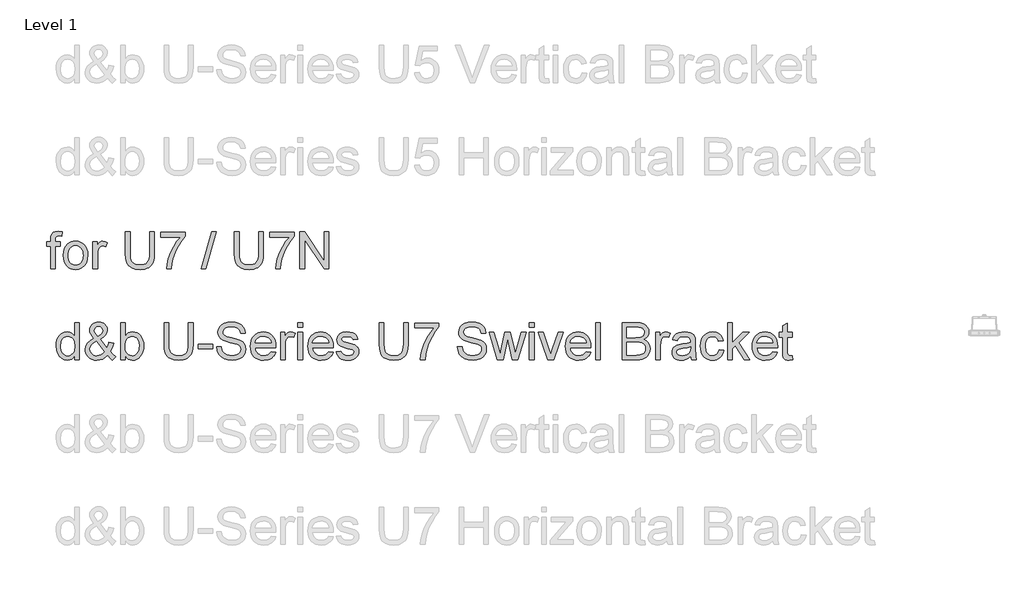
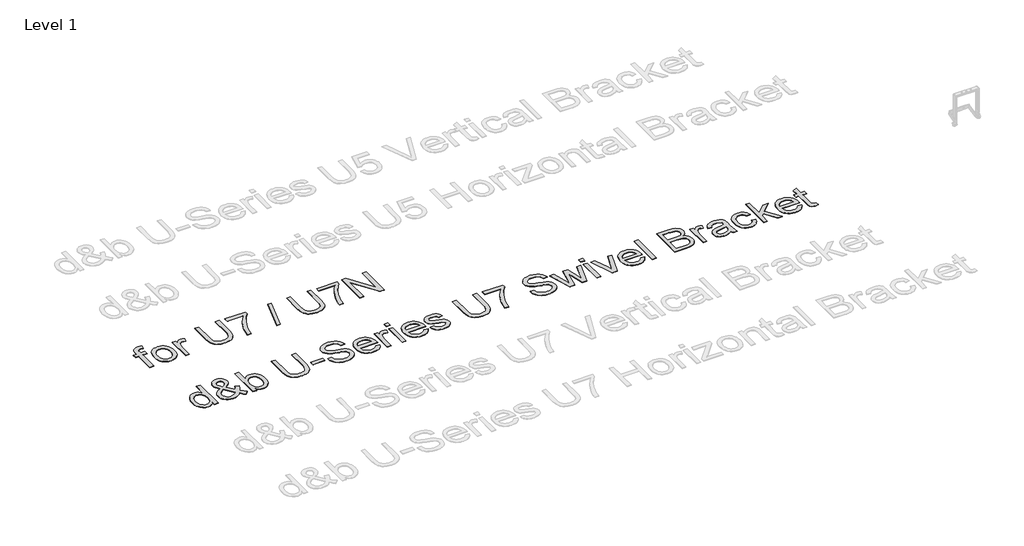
# One storey, part 5 of 29: 2 proxies.
"""IFC4 building model written with IfcOpenShell, lengths in millimetres."""

from ifc_helpers import new_model, si_unit, origin, origin_with_axes, place, context, project, spatial, polyline, outline, extrude, element, save

model = new_model("IFC4")

# Units and contexts
model_context = context("Model", 3, world=origin())
ifc_project = project(units=[si_unit("LENGTHUNIT", "METRE", prefix="MILLI")], contexts=[model_context])

# Site, building, storey
site = spatial("IfcSite", under=ifc_project)
building = spatial("IfcBuilding", under=site)
storey = spatial("IfcBuildingStorey", under=building, Name="Level 1", Elevation=0.0)

# Proxies
placement = place(None, origin())
element("IfcBuildingElementProxy", 1, Name="400mm Arial", ObjectType="400mm Arial", at=placement, inside=storey, context=model_context, shape_type="SweptSolid", body=[
    extrude(outline(polyline([(-21049.3412208, -6853.4987699), (-21049.3412208, -6608.636514), (-21093.2908565, -6608.636514), (-21093.2908565, -6558.4083589), (-21049.3412208, -6558.4083589), (-21049.3412208, -6528.6834937), (-21048.0168456, -6504.0844509), (-21044.0437201, -6486.7939971), (-21033.9392279, -6470.0921546), (-21018.3410313, -6456.8729282), (-20996.5133663, -6448.2644895), (-20967.7204688, -6445.39501), (-20921.9068977, -6450.8887144), (-20929.2645376, -6497.9776098), (-20958.2045879, -6495.623165), (-20977.2976634, -6497.7078297), (-20989.8424395, -6503.9618236), (-20996.7954092, -6515.9057257), (-20999.1130657, -6535.0601149), (-20999.1130657, -6558.4083589), (-20942.6063913, -6558.4083589), (-20942.6063913, -6608.636514), (-20999.1130657, -6608.636514), (-20999.1130657, -6853.4987699), (-21049.3412208, -6853.4987699)])), origin_with_axes(), (0.0, 0.0, 1.0), 5.0),
    extrude(outline(polyline([(-20911.2137944, -6705.9535644), (-20908.497599, -6667.7367565), (-20900.3490128, -6634.8051865), (-20886.7680358, -6607.1588546), (-20867.754668, -6584.7977607), (-20848.6125415, -6570.5055452), (-20827.4838522, -6560.2968198), (-20804.3686002, -6554.1715846), (-20779.2667854, -6552.1298395), (-20751.5560741, -6554.6161086), (-20726.5002446, -6562.0749161), (-20704.0992967, -6574.5062618), (-20684.3532307, -6591.9101459), (-20668.2369336, -6613.6979571), (-20656.7252928, -6639.2810841), (-20649.8183084, -6668.6595271), (-20647.5159802, -6701.8332861), (-20651.5872076, -6752.5764759), (-20663.8008899, -6791.2040854), (-20683.8014077, -6820.131873), (-20711.2331418, -6841.775597), (-20743.8152238, -6855.2768663), (-20779.2667854, -6859.7772893), (-20807.3821669, -6857.3002172), (-20832.6709884, -6849.8690009), (-20855.1332499, -6837.4836404), (-20874.7689514, -6820.1441357), (-20890.7135702, -6798.1447924), (-20902.1025836, -6771.7799161), (-20908.9359917, -6741.0495067), (-20911.2137944, -6705.9535644)]), holes=[polyline([(-20860.9856393, -6705.8554625), (-20859.5325054, -6730.2184477), (-20855.1731038, -6751.3134144), (-20847.9074343, -6769.1403628), (-20837.7354972, -6783.6992927), (-20825.3623994, -6795.0085984), (-20811.4932482, -6803.0866739), (-20796.1280435, -6807.9335192), (-20779.2667854, -6809.5491343), (-20762.4913664, -6807.9243221), (-20747.1874754, -6803.0498857), (-20733.3551124, -6794.9258249), (-20720.9942774, -6783.5521399), (-20710.8223402, -6768.8491229), (-20703.5566708, -6750.737066), (-20699.1972692, -6729.2159692), (-20697.7441353, -6704.2858327), (-20699.2064662, -6680.6953998), (-20703.593459, -6660.152256), (-20710.9051137, -6642.6564015), (-20721.1414302, -6628.2078361), (-20733.5482505, -6616.8985304), (-20747.3714164, -6608.8204549), (-20762.6109281, -6603.9736097), (-20779.2667854, -6602.3579946), (-20796.1280435, -6603.9674783), (-20811.4932482, -6608.7959295), (-20825.3623994, -6616.8433481), (-20837.7354972, -6628.1097342), (-20847.9074343, -6642.6257446), (-20855.1731038, -6660.4220361), (-20859.5325054, -6681.4986088), (-20860.9856393, -6705.8554625)])]), origin_with_axes(), (0.0, 0.0, 1.0), 5.0),
    extrude(outline(polyline([(-20591.0093057, -6853.4987699), (-20591.0093057, -6558.4083589), (-20547.0596701, -6558.4083589), (-20547.0596701, -6602.063689), (-20530.8238113, -6576.7534077), (-20515.8632769, -6561.8419242), (-20500.8536915, -6554.5578607), (-20484.4706799, -6552.1298395), (-20459.4547043, -6556.0048632), (-20434.0463211, -6567.6299342), (-20450.8217401, -6612.6586904), (-20468.4800759, -6604.9331685), (-20486.1384117, -6602.3579946), (-20501.1357343, -6604.8350667), (-20514.5389017, -6612.266283), (-20525.3668951, -6624.0875577), (-20532.6386958, -6639.7348053), (-20538.745537, -6667.7919388), (-20540.7811507, -6698.3997208), (-20540.7811507, -6853.4987699), (-20591.0093057, -6853.4987699)])), origin_with_axes(), (0.0, 0.0, 1.0), 5.0),
    extrude(outline(polyline([(-19975.7144061, -6451.6735293), (-19925.486251, -6451.6735293), (-19925.486251, -6683.4882372), (-19928.8952908, -6737.775357), (-19939.1224103, -6779.5790144), (-19947.3077847, -6796.532243), (-19958.2277486, -6811.8300026), (-19988.2714449, -6837.459115), (-20007.4135713, -6847.2233162), (-20029.3270755, -6854.1977457), (-20081.468217, -6859.7772893), (-20132.4689242, -6854.921247), (-20173.242512, -6840.35312), (-20189.7972018, -6829.5527177), (-20203.8012431, -6816.5756804), (-20215.2546359, -6801.4220078), (-20224.1573802, -6784.0917002), (-20235.5985102, -6740.5222092), (-20239.4122202, -6683.4882372), (-20239.4122202, -6451.6735293), (-20189.1840652, -6451.6735293), (-20189.1840652, -6681.7224037), (-20186.706993, -6726.8615245), (-20179.2757767, -6758.2909096), (-20165.8112957, -6780.057261), (-20145.2344295, -6796.2072806), (-20118.4035693, -6806.2136708), (-20086.1771065, -6809.5491343), (-20058.4939864, -6807.8997966), (-20035.0905601, -6802.9517838), (-20015.9668277, -6794.7050957), (-20001.1227892, -6783.1597325), (-19990.0066216, -6766.9238737), (-19982.0665019, -6744.6056994), (-19977.30243, -6716.2052093), (-19975.7144061, -6681.7224037), (-19975.7144061, -6451.6735293)])), origin_with_axes(), (0.0, 0.0, 1.0), 5.0),
    extrude(outline(polyline([(-19856.4225378, -6508.1802038), (-19856.4225378, -6457.9520487), (-19592.7247236, -6457.9520487), (-19592.7247236, -6498.566221), (-19630.3100008, -6546.133363), (-19667.527396, -6606.6254257), (-19700.3547327, -6674.5241793), (-19724.7698344, -6744.3113938), (-19736.738262, -6796.5261116), (-19743.4091889, -6853.4987699), (-19793.6373439, -6853.4987699), (-19788.2049531, -6801.7255105), (-19773.6736143, -6740.1911154), (-19750.435735, -6674.9656377), (-19718.8837225, -6612.1191302), (-19682.0464721, -6555.3058874), (-19642.9528787, -6508.1802038), (-19856.4225378, -6508.1802038)])), origin_with_axes(), (0.0, 0.0, 1.0), 5.0),
    extrude(outline(polyline([(-19416.9261809, -6853.4987699), (-19303.912832, -6451.6735293), (-19258.3935664, -6451.6735293), (-19371.5050172, -6853.4987699), (-19416.9261809, -6853.4987699)])), origin_with_axes(), (0.0, 0.0, 1.0), 5.0),
    extrude(outline(polyline([(-18795.3527618, -6451.6735293), (-18745.1246067, -6451.6735293), (-18745.1246067, -6683.4882372), (-18748.5336466, -6737.775357), (-18758.760766, -6779.5790144), (-18766.9461404, -6796.532243), (-18777.8661043, -6811.8300026), (-18807.9098006, -6837.459115), (-18827.0519271, -6847.2233162), (-18848.9654313, -6854.1977457), (-18901.1065727, -6859.7772893), (-18952.10728, -6854.921247), (-18992.8808678, -6840.35312), (-19009.4355576, -6829.5527177), (-19023.4395988, -6816.5756804), (-19034.8929916, -6801.4220078), (-19043.7957359, -6784.0917002), (-19055.236866, -6740.5222092), (-19059.050576, -6683.4882372), (-19059.050576, -6451.6735293), (-19008.8224209, -6451.6735293), (-19008.8224209, -6681.7224037), (-19006.3453488, -6726.8615245), (-18998.9141325, -6758.2909096), (-18985.4496515, -6780.057261), (-18964.8727852, -6796.2072806), (-18938.041925, -6806.2136708), (-18905.8154622, -6809.5491343), (-18878.1323421, -6807.8997966), (-18854.7289158, -6802.9517838), (-18835.6051835, -6794.7050957), (-18820.761145, -6783.1597325), (-18809.6449773, -6766.9238737), (-18801.7048576, -6744.6056994), (-18796.9407858, -6716.2052093), (-18795.3527618, -6681.7224037), (-18795.3527618, -6451.6735293)])), origin_with_axes(), (0.0, 0.0, 1.0), 5.0),
    extrude(outline(polyline([(-18676.0608935, -6508.1802038), (-18676.0608935, -6457.9520487), (-18412.3630794, -6457.9520487), (-18412.3630794, -6498.566221), (-18449.9483566, -6546.133363), (-18487.1657517, -6606.6254257), (-18519.9930884, -6674.5241793), (-18544.4081902, -6744.3113938), (-18556.3766178, -6796.5261116), (-18563.0475446, -6853.4987699), (-18613.2756997, -6853.4987699), (-18607.8433089, -6801.7255105), (-18593.3119701, -6740.1911154), (-18570.0740907, -6674.9656377), (-18538.5220783, -6612.1191302), (-18501.6848278, -6555.3058874), (-18462.5912345, -6508.1802038), (-18676.0608935, -6508.1802038)])), origin_with_axes(), (0.0, 0.0, 1.0), 5.0),
    extrude(outline(polyline([(-18349.5778855, -6853.4987699), (-18349.5778855, -6451.6735293), (-18295.8180633, -6451.6735293), (-18085.8800714, -6770.0140825), (-18085.8800714, -6451.6735293), (-18035.6519163, -6451.6735293), (-18035.6519163, -6853.4987699), (-18089.4117385, -6853.4987699), (-18299.3497305, -6535.0601149), (-18299.3497305, -6853.4987699), (-18349.5778855, -6853.4987699)])), origin_with_axes(), (0.0, 0.0, 1.0), 5.0),
])
element("IfcBuildingElementProxy", 2, Name="400mm Arial", ObjectType="400mm Arial", at=placement, inside=storey, context=model_context, shape_type="SweptSolid", body=[
    extrude(outline(polyline([(-20788.4119982, -7835.6363385), (-20788.4119982, -7788.2531375), (-20803.4399777, -7811.7301402), (-20821.6440051, -7828.4994278), (-20843.0240804, -7838.5610004), (-20867.5802036, -7841.9148579), (-20900.051921, -7837.0588156), (-20929.7767862, -7822.4906885), (-20954.9399147, -7799.2282837), (-20973.7264219, -7768.2894079), (-20985.4250694, -7730.9248599), (-20989.3246185, -7688.3854386), (-20985.7316377, -7646.3733147), (-20974.9526952, -7608.4324183), (-20957.0000539, -7576.7209903), (-20931.8859763, -7553.3972718), (-20901.5111863, -7539.049874), (-20867.7764073, -7534.2674081), (-20843.20189, -7537.6887106), (-20821.4723268, -7547.9526183), (-20803.0537016, -7563.6857049), (-20788.4119982, -7583.5145445), (-20788.4119982, -7433.8110979), (-20738.1838431, -7433.8110979), (-20738.1838431, -7835.6363385), (-20788.4119982, -7835.6363385)]), holes=[polyline([(-20939.0964634, -7688.1892348), (-20937.6801177, -7712.5460886), (-20933.4310807, -7733.6226612), (-20926.3493523, -7751.4189528), (-20916.4349325, -7765.9349632), (-20891.7377879, -7785.2487679), (-20877.8625053, -7790.0772191), (-20862.9694159, -7791.6867028), (-20848.0058157, -7790.1507955), (-20834.2133066, -7785.5430735), (-20810.1415614, -7767.1121855), (-20800.6348775, -7753.2031804), (-20793.844389, -7736.0506824), (-20788.4119982, -7692.0152076), (-20793.9424909, -7643.8717172), (-20800.8556067, -7625.336596), (-20810.5339688, -7610.4925575), (-20822.235682, -7599.1188724), (-20835.2188507, -7590.9948117), (-20849.4834751, -7586.1203753), (-20865.0295551, -7584.4955631), (-20880.2169501, -7586.0559959), (-20894.0922327, -7590.7372943), (-20906.6554028, -7598.5394583), (-20917.9064605, -7609.4624879), (-20927.1770868, -7623.7455063), (-20933.7989627, -7641.627637), (-20939.0964634, -7688.1892348)])]), origin_with_axes(), (0.0, 0.0, 1.0), 5.0),
    extrude(outline(polyline([(-20432.4003287, -7785.9967946), (-20457.9313392, -7810.4609473), (-20485.6696416, -7827.9353421), (-20515.664287, -7838.4199789), (-20547.9643262, -7841.9148579), (-20577.2722584, -7839.3274212), (-20603.3918801, -7831.5651111), (-20626.3231911, -7818.6279276), (-20646.0661915, -7800.5158707), (-20658.8991418, -7783.1457092), (-20668.0655348, -7764.7822662), (-20673.5653707, -7745.4255419), (-20675.3986493, -7725.0755362), (-20669.5002746, -7689.881492), (-20651.8051507, -7658.2681659), (-20622.3868538, -7630.2600833), (-20581.3189604, -7605.8817698), (-20603.2324646, -7577.5303307), (-20616.3903773, -7555.0650035), (-20622.975465, -7535.8860888), (-20625.1704942, -7517.3938872), (-20623.4414488, -7499.8397847), (-20618.2543127, -7483.4751673), (-20609.6090858, -7468.300035), (-20597.5057682, -7454.3143878), (-20582.784357, -7442.5973462), (-20566.2848495, -7434.2280308), (-20548.0072457, -7429.2064416), (-20527.9515456, -7427.5325785), (-20508.8032878, -7429.1328652), (-20491.4821772, -7433.9337252), (-20475.9882138, -7441.9351586), (-20462.3213977, -7453.1371654), (-20451.1623105, -7466.5832523), (-20443.1915339, -7481.3169262), (-20438.409068, -7497.3381871), (-20436.8149127, -7514.647035), (-20441.5360649, -7542.6305921), (-20455.6995218, -7568.5049591), (-20479.3052831, -7592.270136), (-20512.353349, -7613.9261227), (-20439.6598668, -7704.4741445), (-20427.2745063, -7678.5997775), (-20417.9793545, -7648.8503868), (-20367.7511994, -7659.7396939), (-20383.2022432, -7706.2645035), (-20403.2640747, -7742.4395664), (-20374.7164319, -7775.7451497), (-20342.6371219, -7803.2627229), (-20380.3082382, -7841.9148579), (-20405.9373505, -7818.4685121), (-20432.4003287, -7785.9967946)]), holes=[polyline([(-20537.7617322, -7582.2392202), (-20511.4949577, -7565.5741659), (-20496.4608468, -7551.091878), (-20489.3975125, -7537.0019976), (-20487.0430678, -7521.5141656), (-20490.1455392, -7503.9661944), (-20499.4529537, -7489.9744158), (-20513.4202068, -7480.8141542), (-20530.5021941, -7477.7607336), (-20547.9520634, -7480.7896287), (-20562.2381476, -7489.876314), (-20571.7662912, -7503.3285323), (-20574.9423391, -7519.4540264), (-20570.6258571, -7537.8481261), (-20557.578309, -7558.3023651), (-20537.7617322, -7582.2392202)]), polyline([(-20466.0492686, -7749.7972063), (-20555.7143735, -7637.8629779), (-20589.9641873, -7659.7151684), (-20610.8966728, -7679.9486782), (-20621.6020389, -7699.2747456), (-20625.1704942, -7718.4046094), (-20620.2899264, -7742.0962099), (-20605.648223, -7766.6707271), (-20594.8692805, -7777.6152165), (-20582.0547244, -7785.4327089), (-20567.2045545, -7790.1232043), (-20550.3187709, -7791.6867028), (-20527.5959264, -7788.7681723), (-20504.1618433, -7780.0125808), (-20482.7388484, -7766.6216762), (-20466.0492686, -7749.7972063)])]), origin_with_axes(), (0.0, 0.0, 1.0), 5.0),
    extrude(outline(polyline([(-20242.1808118, -7835.6363385), (-20292.4089668, -7835.6363385), (-20292.4089668, -7433.8110979), (-20242.1808118, -7433.8110979), (-20242.1808118, -7582.8278314), (-20225.6629102, -7561.5826462), (-20207.011293, -7546.4075139), (-20186.2259603, -7537.3024345), (-20163.306912, -7534.2674081), (-20137.432545, -7537.0019976), (-20112.9806551, -7545.2057661), (-20091.3491937, -7558.3636787), (-20073.9361126, -7575.9607008), (-20060.2876906, -7597.8251541), (-20049.9502065, -7623.7853602), (-20043.4386952, -7652.7621987), (-20041.2681915, -7683.676549), (-20043.5153373, -7719.3488398), (-20050.2567749, -7750.729174), (-20061.4925041, -7777.8175516), (-20077.2225251, -7800.6139726), (-20096.1040685, -7818.6831099), (-20116.7943651, -7831.5896366), (-20139.2934148, -7839.3335526), (-20163.6012176, -7841.9148579), (-20187.274424, -7838.5855258), (-20208.2620918, -7828.5975297), (-20226.5642211, -7811.9508694), (-20242.1808118, -7788.645545), (-20242.1808118, -7835.6363385)]), holes=[polyline([(-20242.1808118, -7686.0309938), (-20238.7472465, -7727.9204903), (-20228.4465506, -7756.2719294), (-20216.2757879, -7771.7658928), (-20202.1307252, -7782.8330095), (-20186.0113625, -7789.4732795), (-20167.9176997, -7791.6867028), (-20152.8958515, -7790.0557593), (-20138.9285984, -7785.1629288), (-20126.0159404, -7777.0082112), (-20114.1578774, -7765.5916066), (-20104.2434577, -7750.9437719), (-20097.1617293, -7733.0953637), (-20092.9126922, -7712.0463822), (-20091.4963465, -7687.7968274), (-20096.9287373, -7641.8361035), (-20103.7192258, -7624.0428776), (-20113.2259097, -7609.7077425), (-20124.6578427, -7598.677414), (-20137.2240785, -7590.798608), (-20150.9246172, -7586.0713243), (-20165.7594586, -7584.4955631), (-20180.7813068, -7586.1265066), (-20194.7485599, -7591.0193372), (-20207.6612179, -7599.1740547), (-20219.5192809, -7610.5906593), (-20229.4337006, -7625.0913413), (-20236.515429, -7642.498291), (-20240.7644661, -7662.8115085), (-20242.1808118, -7686.0309938)])]), origin_with_axes(), (0.0, 0.0, 1.0), 5.0),
    extrude(outline(polyline([(-19557.8221989, -7433.8110979), (-19507.5940438, -7433.8110979), (-19507.5940438, -7665.6258058), (-19511.0030836, -7719.9129256), (-19521.2302031, -7761.7165829), (-19529.4155775, -7778.6698116), (-19540.3355414, -7793.9675712), (-19570.3792376, -7819.5966835), (-19589.5213641, -7829.3608848), (-19611.4348683, -7836.3353143), (-19663.5760097, -7841.9148579), (-19714.576717, -7837.0588156), (-19755.3503048, -7822.4906885), (-19771.9049946, -7811.6902863), (-19785.9090359, -7798.7132489), (-19797.3624287, -7783.5595764), (-19806.2651729, -7766.2292688), (-19817.706303, -7722.6597778), (-19821.520013, -7665.6258058), (-19821.520013, -7433.8110979), (-19771.2918579, -7433.8110979), (-19771.2918579, -7663.8599722), (-19768.8147858, -7708.999093), (-19761.3835695, -7740.4284782), (-19747.9190885, -7762.1948295), (-19727.3422222, -7778.3448491), (-19700.5113621, -7788.3512394), (-19668.2848993, -7791.6867028), (-19640.6017791, -7790.0373652), (-19617.1983529, -7785.0893524), (-19598.0746205, -7776.8426643), (-19583.230582, -7765.297301), (-19572.1144144, -7749.0614423), (-19564.1742947, -7726.7432679), (-19559.4102228, -7698.3427779), (-19557.8221989, -7663.8599722), (-19557.8221989, -7433.8110979)])), origin_with_axes(), (0.0, 0.0, 1.0), 5.0),
    extrude(outline(polyline([(-19451.0873693, -7716.3444702), (-19451.0873693, -7666.1163151), (-19294.1243847, -7666.1163151), (-19294.1243847, -7716.3444702), (-19451.0873693, -7716.3444702)])), origin_with_axes(), (0.0, 0.0, 1.0), 5.0),
    extrude(outline(polyline([(-19250.174749, -7697.5089121), (-19199.946594, -7697.5089121), (-19194.1831094, -7725.3821046), (-19183.7597862, -7747.7861181), (-19167.499402, -7765.5670812), (-19144.2247344, -7779.5711224), (-19115.7751935, -7788.6578077), (-19083.9901891, -7791.6867028), (-19056.006632, -7789.3935717), (-19031.5056911, -7782.5141784), (-19011.6523261, -7771.6248713), (-18997.6114966, -7757.301999), (-18989.2605753, -7740.8576738), (-18986.4769349, -7723.6040082), (-18988.5615995, -7706.7918011), (-18994.8155934, -7692.2604623), (-19007.519785, -7679.862839), (-19028.9550426, -7669.4517786), (-19102.0899832, -7650.2728639), (-19150.0985836, -7637.580935), (-19180.8167302, -7625.5021429), (-19205.8204431, -7608.6040966), (-19223.5400926, -7588.1253322), (-19234.0983058, -7564.5073081), (-19237.6177103, -7538.1914827), (-19233.26444, -7508.7731858), (-19220.2046292, -7481.3414517), (-19198.7816343, -7458.0913096), (-19169.338812, -7441.2177887), (-19133.997615, -7430.9538811), (-19094.8794961, -7427.5325785), (-19052.4994903, -7431.1132966), (-19015.4169852, -7441.8554509), (-18984.956356, -7459.5383121), (-18962.4419779, -7483.9411511), (-18948.1926819, -7513.543389), (-18942.5272992, -7546.8244468), (-18992.7554543, -7546.8244468), (-19001.9770296, -7516.854327), (-19010.3402136, -7504.996264), (-19021.2049952, -7495.2228656), (-19051.2486915, -7482.1262666), (-19092.9174588, -7477.7607336), (-19135.5672448, -7482.0772157), (-19151.8705486, -7487.4728183), (-19164.8261262, -7495.0266619), (-19181.7486979, -7514.0829493), (-19187.3895552, -7536.7199547), (-19183.3919042, -7556.0214967), (-19171.3989511, -7571.5461169), (-19143.047512, -7585.4275309), (-19089.3857917, -7599.6032504), (-19034.0072887, -7613.0677314), (-19000.5055016, -7624.8154298), (-18971.8720197, -7643.0378513), (-18951.8960273, -7665.5277039), (-18940.1605917, -7692.0397331), (-18936.2487798, -7722.328684), (-18940.7492029, -7753.2920853), (-18954.2504721, -7782.4160765), (-18976.2007645, -7807.4811031), (-19006.048257, -7826.2676104), (-19041.941277, -7838.003046), (-19082.0281518, -7841.9148579), (-19131.2385, -7837.6964777), (-19171.7423077, -7825.041337), (-19204.0055586, -7803.9003851), (-19228.4942368, -7774.2245708), (-19244.2150607, -7738.0740334), (-19250.174749, -7697.5089121)])), origin_with_axes(), (0.0, 0.0, 1.0), 5.0),
    extrude(outline(polyline([(-18660.5825381, -7747.7370671), (-18611.3354017, -7754.0155865), (-18618.8861796, -7773.7401928), (-18629.0795766, -7791.1226171), (-18641.9155925, -7806.1628593), (-18657.3942275, -7818.8609195), (-18675.3560659, -7828.9470176), (-18695.6416922, -7836.1513733), (-18743.1843087, -7841.9148579), (-18774.3500451, -7839.4285887), (-18802.1190044, -7831.9697813), (-18826.4911866, -7819.5384355), (-18847.4665916, -7802.1345515), (-18864.3339811, -7780.2425071), (-18876.3821165, -7754.3466803), (-18883.6109977, -7724.4470712), (-18886.0206247, -7690.5436796), (-18883.5864722, -7655.4906568), (-18876.2840146, -7624.5947006), (-18864.1132519, -7597.8558109), (-18847.0741842, -7575.2739878), (-18826.1539614, -7557.3336092), (-18802.3397336, -7544.519053), (-18775.6315007, -7536.8303193), (-18746.0292628, -7534.2674081), (-18717.3804525, -7536.8241879), (-18691.472363, -7544.4945275), (-18668.3049943, -7557.2784269), (-18647.8783465, -7575.1758859), (-18631.2040951, -7597.7086581), (-18619.2939155, -7624.3984969), (-18612.1478077, -7655.2454022), (-18609.7657718, -7690.249374), (-18610.0600774, -7703.7874314), (-18835.7924697, -7703.7874314), (-18832.8831362, -7723.8308688), (-18827.0981918, -7741.3849713), (-18818.4376365, -7756.449739), (-18806.9014703, -7769.0251719), (-18793.1273553, -7778.9395917), (-18777.7529536, -7786.0213201), (-18742.2032901, -7791.6867028), (-18715.4705318, -7789.0624779), (-18692.9561537, -7781.1898032), (-18674.6601558, -7767.5781694), (-18660.5825381, -7747.7370671)]), holes=[polyline([(-18835.7924697, -7653.5592764), (-18659.9939269, -7653.5592764), (-18666.7874811, -7627.0227218), (-18680.1048093, -7608.0400108), (-18693.8022823, -7597.739315), (-18709.3882161, -7590.3816751), (-18726.8626109, -7585.9670911), (-18746.2254666, -7584.4955631), (-18780.0828729, -7589.1921899), (-18808.0786927, -7603.2820704), (-18827.5396502, -7625.2446255), (-18835.7924697, -7653.5592764)])]), origin_with_axes(), (0.0, 0.0, 1.0), 5.0),
    extrude(outline(polyline([(-18559.5376168, -7835.6363385), (-18559.5376168, -7540.5459274), (-18515.5879811, -7540.5459274), (-18515.5879811, -7584.2012575), (-18499.3521223, -7558.8909763), (-18484.3915879, -7543.9794927), (-18469.3820025, -7536.6954292), (-18452.998991, -7534.2674081), (-18427.9830153, -7538.1424317), (-18402.5746321, -7549.7675028), (-18419.3500511, -7594.796259), (-18437.0083869, -7587.0707371), (-18454.6667227, -7584.4955631), (-18469.6640453, -7586.9726352), (-18483.0672127, -7594.4038515), (-18493.8952061, -7606.2251263), (-18501.1670069, -7621.8723738), (-18507.273848, -7649.9295073), (-18509.3094617, -7680.5372893), (-18509.3094617, -7835.6363385), (-18559.5376168, -7835.6363385)])), origin_with_axes(), (0.0, 0.0, 1.0), 5.0),
    extrude(outline(polyline([(-18371.1820352, -7484.039253), (-18371.1820352, -7433.8110979), (-18320.9538802, -7433.8110979), (-18320.9538802, -7484.039253), (-18371.1820352, -7484.039253)])), origin_with_axes(), (0.0, 0.0, 1.0), 5.0),
    extrude(outline(polyline([(-18371.1820352, -7835.6363385), (-18371.1820352, -7540.5459274), (-18320.9538802, -7540.5459274), (-18320.9538802, -7835.6363385), (-18371.1820352, -7835.6363385)])), origin_with_axes(), (0.0, 0.0, 1.0), 5.0),
    extrude(outline(polyline([(-18039.009119, -7747.7370671), (-17989.7619826, -7754.0155865), (-17997.3127606, -7773.7401928), (-18007.5061575, -7791.1226171), (-18020.3421735, -7806.1628593), (-18035.8208084, -7818.8609195), (-18053.7826468, -7828.9470176), (-18074.0682732, -7836.1513733), (-18121.6108897, -7841.9148579), (-18152.7766261, -7839.4285887), (-18180.5455853, -7831.9697813), (-18204.9177675, -7819.5384355), (-18225.8931726, -7802.1345515), (-18242.7605621, -7780.2425071), (-18254.8086974, -7754.3466803), (-18262.0375786, -7724.4470712), (-18264.4472057, -7690.5436796), (-18262.0130532, -7655.4906568), (-18254.7105956, -7624.5947006), (-18242.5398329, -7597.8558109), (-18225.5007651, -7575.2739878), (-18204.5805423, -7557.3336092), (-18180.7663145, -7544.519053), (-18154.0580817, -7536.8303193), (-18124.4558438, -7534.2674081), (-18095.8070334, -7536.8241879), (-18069.8989439, -7544.4945275), (-18046.7315753, -7557.2784269), (-18026.3049275, -7575.1758859), (-18009.630676, -7597.7086581), (-17997.7204965, -7624.3984969), (-17990.5743887, -7655.2454022), (-17988.1923528, -7690.249374), (-17988.4866584, -7703.7874314), (-18214.2190506, -7703.7874314), (-18211.3097172, -7723.8308688), (-18205.5247728, -7741.3849713), (-18196.8642175, -7756.449739), (-18185.3280513, -7769.0251719), (-18171.5539362, -7778.9395917), (-18156.1795345, -7786.0213201), (-18120.629871, -7791.6867028), (-18093.8971127, -7789.0624779), (-18071.3827346, -7781.1898032), (-18053.0867367, -7767.5781694), (-18039.009119, -7747.7370671)]), holes=[polyline([(-18214.2190506, -7653.5592764), (-18038.4205079, -7653.5592764), (-18045.214062, -7627.0227218), (-18058.5313903, -7608.0400108), (-18072.2288632, -7597.739315), (-18087.8147971, -7590.3816751), (-18105.2891918, -7585.9670911), (-18124.6520475, -7584.4955631), (-18158.5094538, -7589.1921899), (-18186.5052736, -7603.2820704), (-18205.9662312, -7625.2446255), (-18214.2190506, -7653.5592764)])]), origin_with_axes(), (0.0, 0.0, 1.0), 5.0),
    extrude(outline(polyline([(-17956.7997559, -7747.7370671), (-17906.5716008, -7741.4585477), (-17898.6498752, -7762.9428563), (-17883.3214587, -7778.7372566), (-17860.4882495, -7788.4493413), (-17830.0521458, -7791.6867028), (-17799.983924, -7788.7191214), (-17778.8429721, -7779.8163771), (-17766.3349842, -7766.9159818), (-17762.1656549, -7751.9554473), (-17766.3595097, -7739.1531539), (-17778.9410739, -7729.3920183), (-17830.640757, -7715.069146), (-17906.2772952, -7690.4946287), (-17925.4194217, -7678.1460564), (-17939.2885729, -7661.7998331), (-17947.7130706, -7642.498291), (-17950.5212365, -7621.2837627), (-17948.2648936, -7601.8228051), (-17941.4958649, -7583.857901), (-17930.827287, -7568.1002889), (-17916.8722966, -7555.2612073), (-17884.9401395, -7540.3987746), (-17864.0567049, -7535.8002497), (-17841.7262678, -7534.2674081), (-17809.0338211, -7536.7322174), (-17780.6088056, -7544.1266455), (-17757.751071, -7555.7271911), (-17741.7604669, -7570.8103529), (-17731.1654655, -7590.4920397), (-17724.4945386, -7615.8881601), (-17774.7226937, -7622.1666794), (-17781.0625268, -7606.3600164), (-17793.6073028, -7594.4529025), (-17812.4796492, -7586.984898), (-17837.8021932, -7584.4955631), (-17866.6441416, -7586.8745334), (-17885.8721072, -7594.0114441), (-17896.6878378, -7604.3121399), (-17900.2930814, -7616.1824657), (-17894.3088676, -7630.7996436), (-17875.5714113, -7641.8851544), (-17832.3084887, -7652.5782577), (-17758.5849369, -7676.2208073), (-17739.1117166, -7687.5270473), (-17724.3473858, -7703.0026165), (-17715.0399714, -7722.696566), (-17711.9374999, -7746.6579466), (-17715.5795316, -7771.4286676), (-17726.5056269, -7794.7278606), (-17744.2988527, -7814.7283785), (-17768.5422762, -7829.6030738), (-17797.825683, -7838.8369119), (-17830.7388588, -7841.9148579), (-17857.7720541, -7840.4310672), (-17881.3839468, -7835.979695), (-17901.574537, -7828.5607415), (-17918.3438246, -7818.1742065), (-17932.0412976, -7804.869141), (-17943.0164438, -7788.6945959), (-17951.2692632, -7769.6505713), (-17956.7997559, -7747.7370671)])), origin_with_axes(), (0.0, 0.0, 1.0), 5.0),
    extrude(outline(polyline([(-17228.4915073, -7433.8110979), (-17178.2633522, -7433.8110979), (-17178.2633522, -7665.6258058), (-17181.672392, -7719.9129256), (-17191.8995115, -7761.7165829), (-17200.0848859, -7778.6698116), (-17211.0048498, -7793.9675712), (-17241.048546, -7819.5966835), (-17260.1906725, -7829.3608848), (-17282.1041767, -7836.3353143), (-17334.2453182, -7841.9148579), (-17385.2460254, -7837.0588156), (-17426.0196132, -7822.4906885), (-17442.574303, -7811.6902863), (-17456.5783443, -7798.7132489), (-17468.0317371, -7783.5595764), (-17476.9344814, -7766.2292688), (-17488.3756114, -7722.6597778), (-17492.1893214, -7665.6258058), (-17492.1893214, -7433.8110979), (-17441.9611663, -7433.8110979), (-17441.9611663, -7663.8599722), (-17439.4840942, -7708.999093), (-17432.0528779, -7740.4284782), (-17418.5883969, -7762.1948295), (-17398.0115307, -7778.3448491), (-17371.1806705, -7788.3512394), (-17338.9542077, -7791.6867028), (-17311.2710876, -7790.0373652), (-17287.8676613, -7785.0893524), (-17268.7439289, -7776.8426643), (-17253.8998904, -7765.297301), (-17242.7837228, -7749.0614423), (-17234.8436031, -7726.7432679), (-17230.0795312, -7698.3427779), (-17228.4915073, -7663.8599722), (-17228.4915073, -7433.8110979)])), origin_with_axes(), (0.0, 0.0, 1.0), 5.0),
    extrude(outline(polyline([(-17109.199639, -7490.3177724), (-17109.199639, -7440.0896173), (-16845.5018248, -7440.0896173), (-16845.5018248, -7480.7037896), (-16883.087102, -7528.2709315), (-16920.3044972, -7588.7629943), (-16953.1318339, -7656.6617479), (-16977.5469356, -7726.4489623), (-16989.5153632, -7778.6636802), (-16996.1862901, -7835.6363385), (-17046.4144451, -7835.6363385), (-17040.9820543, -7783.8630791), (-17026.4507155, -7722.328684), (-17003.2128362, -7657.1032063), (-16971.6608237, -7594.2566987), (-16934.8235733, -7537.443456), (-16895.7299799, -7490.3177724), (-17109.199639, -7490.3177724)])), origin_with_axes(), (0.0, 0.0, 1.0), 5.0),
    extrude(outline(polyline([(-16644.5892045, -7697.5089121), (-16594.3610495, -7697.5089121), (-16588.5975649, -7725.3821046), (-16578.1742417, -7747.7861181), (-16561.9138575, -7765.5670812), (-16538.6391899, -7779.5711224), (-16510.189649, -7788.6578077), (-16478.4046446, -7791.6867028), (-16450.4210875, -7789.3935717), (-16425.9201466, -7782.5141784), (-16406.0667816, -7771.6248713), (-16392.0259521, -7757.301999), (-16383.6750308, -7740.8576738), (-16380.8913904, -7723.6040082), (-16382.976055, -7706.7918011), (-16389.2300489, -7692.2604623), (-16401.9342405, -7679.862839), (-16423.3694981, -7669.4517786), (-16496.5044387, -7650.2728639), (-16544.5130391, -7637.580935), (-16575.2311857, -7625.5021429), (-16600.2348986, -7608.6040966), (-16617.9545481, -7588.1253322), (-16628.5127613, -7564.5073081), (-16632.0321658, -7538.1914827), (-16627.6788955, -7508.7731858), (-16614.6190847, -7481.3414517), (-16593.1960898, -7458.0913096), (-16563.7532675, -7441.2177887), (-16528.4120705, -7430.9538811), (-16489.2939516, -7427.5325785), (-16446.9139458, -7431.1132966), (-16409.8314407, -7441.8554509), (-16379.3708115, -7459.5383121), (-16356.8564334, -7483.9411511), (-16342.6071374, -7513.543389), (-16336.9417547, -7546.8244468), (-16387.1699098, -7546.8244468), (-16396.3914851, -7516.854327), (-16404.7546691, -7504.996264), (-16415.6194507, -7495.2228656), (-16445.663147, -7482.1262666), (-16487.3319143, -7477.7607336), (-16529.9817003, -7482.0772157), (-16546.2850041, -7487.4728183), (-16559.2405816, -7495.0266619), (-16576.1631534, -7514.0829493), (-16581.8040107, -7536.7199547), (-16577.8063597, -7556.0214967), (-16565.8134066, -7571.5461169), (-16537.4619675, -7585.4275309), (-16483.8002472, -7599.6032504), (-16428.4217442, -7613.0677314), (-16394.9199571, -7624.8154298), (-16366.2864752, -7643.0378513), (-16346.3104828, -7665.5277039), (-16334.5750472, -7692.0397331), (-16330.6632353, -7722.328684), (-16335.1636584, -7753.2920853), (-16348.6649276, -7782.4160765), (-16370.61522, -7807.4811031), (-16400.4627125, -7826.2676104), (-16436.3557325, -7838.003046), (-16476.4426073, -7841.9148579), (-16525.6529555, -7837.6964777), (-16566.1567632, -7825.041337), (-16598.4200141, -7803.9003851), (-16622.9086923, -7774.2245708), (-16638.6295162, -7738.0740334), (-16644.5892045, -7697.5089121)])), origin_with_axes(), (0.0, 0.0, 1.0), 5.0),
    extrude(outline(polyline([(-16212.2542838, -7835.6363385), (-16302.4098981, -7540.5459274), (-16250.3178076, -7540.5459274), (-16199.3048376, -7712.7147012), (-16184.0990484, -7774.2245708), (-16171.6401115, -7714.9710441), (-16131.1240411, -7540.5459274), (-16071.478107, -7540.5459274), (-16030.9620366, -7714.4805348), (-16019.8765258, -7768.1422551), (-16003.9840236, -7711.5374788), (-15952.9710536, -7540.5459274), (-15900.5846575, -7540.5459274), (-15991.0345774, -7835.6363385), (-16051.6615302, -7835.6363385), (-16090.3136651, -7662.584648), (-16101.4972778, -7608.628622), (-16151.2349235, -7835.6363385), (-16212.2542838, -7835.6363385)])), origin_with_axes(), (0.0, 0.0, 1.0), 5.0),
    extrude(outline(polyline([(-15866.0528009, -7484.039253), (-15866.0528009, -7433.8110979), (-15815.8246458, -7433.8110979), (-15815.8246458, -7484.039253), (-15866.0528009, -7484.039253)])), origin_with_axes(), (0.0, 0.0, 1.0), 5.0),
    extrude(outline(polyline([(-15866.0528009, -7835.6363385), (-15866.0528009, -7540.5459274), (-15815.8246458, -7540.5459274), (-15815.8246458, -7835.6363385), (-15866.0528009, -7835.6363385)])), origin_with_axes(), (0.0, 0.0, 1.0), 5.0),
    extrude(outline(polyline([(-15667.8870328, -7835.6363385), (-15771.8750101, -7540.5459274), (-15718.8019009, -7540.5459274), (-15655.8205034, -7717.3254889), (-15636.8868433, -7776.7752193), (-15618.3455908, -7720.6609523), (-15555.0698876, -7540.5459274), (-15501.8986766, -7540.5459274), (-15604.4151259, -7835.6363385), (-15667.8870328, -7835.6363385)])), origin_with_axes(), (0.0, 0.0, 1.0), 5.0),
    extrude(outline(polyline([(-15251.3465124, -7747.7370671), (-15202.099376, -7754.0155865), (-15209.6501539, -7773.7401928), (-15219.8435509, -7791.1226171), (-15232.6795668, -7806.1628593), (-15248.1582018, -7818.8609195), (-15266.1200402, -7828.9470176), (-15286.4056665, -7836.1513733), (-15333.948283, -7841.9148579), (-15365.1140194, -7839.4285887), (-15392.8829787, -7831.9697813), (-15417.2551609, -7819.5384355), (-15438.2305659, -7802.1345515), (-15455.0979554, -7780.2425071), (-15467.1460908, -7754.3466803), (-15474.374972, -7724.4470712), (-15476.784599, -7690.5436796), (-15474.3504465, -7655.4906568), (-15467.0479889, -7624.5947006), (-15454.8772262, -7597.8558109), (-15437.8381585, -7575.2739878), (-15416.9179357, -7557.3336092), (-15393.1037079, -7544.519053), (-15366.395475, -7536.8303193), (-15336.7932371, -7534.2674081), (-15308.1444268, -7536.8241879), (-15282.2363373, -7544.4945275), (-15259.0689686, -7557.2784269), (-15238.6423208, -7575.1758859), (-15221.9680694, -7597.7086581), (-15210.0578898, -7624.3984969), (-15202.911782, -7655.2454022), (-15200.5297461, -7690.249374), (-15200.8240517, -7703.7874314), (-15426.556444, -7703.7874314), (-15423.6471105, -7723.8308688), (-15417.8621661, -7741.3849713), (-15409.2016108, -7756.449739), (-15397.6654446, -7769.0251719), (-15383.8913296, -7778.9395917), (-15368.5169279, -7786.0213201), (-15332.9672644, -7791.6867028), (-15306.2345061, -7789.0624779), (-15283.720128, -7781.1898032), (-15265.4241301, -7767.5781694), (-15251.3465124, -7747.7370671)]), holes=[polyline([(-15426.556444, -7653.5592764), (-15250.7579012, -7653.5592764), (-15257.5514554, -7627.0227218), (-15270.8687836, -7608.0400108), (-15284.5662566, -7597.739315), (-15300.1521904, -7590.3816751), (-15317.6265852, -7585.9670911), (-15336.9894409, -7584.4955631), (-15370.8468472, -7589.1921899), (-15398.842667, -7603.2820704), (-15418.3036245, -7625.2446255), (-15426.556444, -7653.5592764)])]), origin_with_axes(), (0.0, 0.0, 1.0), 5.0),
    extrude(outline(polyline([(-15150.3015911, -7835.6363385), (-15150.3015911, -7433.8110979), (-15100.073436, -7433.8110979), (-15100.073436, -7835.6363385), (-15150.3015911, -7835.6363385)])), origin_with_axes(), (0.0, 0.0, 1.0), 5.0),
    extrude(outline(polyline([(-14861.4896994, -7835.6363385), (-14861.4896994, -7433.8110979), (-14708.1564838, -7433.8110979), (-14665.9849444, -7436.7664166), (-14633.0595058, -7445.6323727), (-14607.822801, -7460.6296954), (-14588.7174627, -7481.9791138), (-14576.6877214, -7507.0931914), (-14572.6778077, -7533.3844913), (-14576.0500593, -7557.5788638), (-14586.1668142, -7580.3262339), (-14603.1016487, -7600.2286498), (-14626.9281392, -7615.8881601), (-14598.4663356, -7630.7505927), (-14577.4357482, -7653.3630726), (-14564.4495137, -7682.2295465), (-14560.1207689, -7715.8539609), (-14563.0760876, -7743.8743062), (-14571.9420437, -7769.8590378), (-14585.1735328, -7791.9564829), (-14601.2254505, -7808.314969), (-14620.8826118, -7820.1607692), (-14644.9298315, -7828.720157), (-14674.1519247, -7833.9072931), (-14709.3337062, -7835.6363385), (-14861.4896994, -7835.6363385)]), holes=[polyline([(-14811.2615443, -7785.4081834), (-14708.2545856, -7785.4081834), (-14670.9758768, -7783.4461461), (-14639.4361271, -7772.5077881), (-14627.860107, -7763.0777463), (-14618.5404298, -7750.1896138), (-14612.3968004, -7734.4197389), (-14610.348924, -7716.3444702), (-14612.7524197, -7695.350671), (-14619.9629068, -7677.2999278), (-14632.5567338, -7663.1855219), (-14651.1102491, -7654.0007348), (-14677.3892863, -7648.9607514), (-14713.1596789, -7647.280757), (-14811.2615443, -7647.280757), (-14811.2615443, -7785.4081834)]), polyline([(-14811.2615443, -7597.0526019), (-14719.5363002, -7597.0526019), (-14665.9726817, -7592.7361198), (-14647.2229626, -7585.2926408), (-14633.7462189, -7574.1458163), (-14625.6160268, -7559.4673247), (-14622.9059628, -7541.4288442), (-14625.4320858, -7523.9176613), (-14633.0104549, -7508.6628212), (-14645.2977135, -7496.7557073), (-14661.9505052, -7489.2877028), (-14687.5060411, -7485.3513654), (-14726.5015326, -7484.039253), (-14811.2615443, -7484.039253), (-14811.2615443, -7597.0526019)])]), origin_with_axes(), (0.0, 0.0, 1.0), 5.0),
    extrude(outline(polyline([(-14497.3355751, -7835.6363385), (-14497.3355751, -7540.5459274), (-14453.3859394, -7540.5459274), (-14453.3859394, -7584.2012575), (-14437.1500807, -7558.8909763), (-14422.1895462, -7543.9794927), (-14407.1799608, -7536.6954292), (-14390.7969493, -7534.2674081), (-14365.7809736, -7538.1424317), (-14340.3725905, -7549.7675028), (-14357.1480095, -7594.796259), (-14374.8063452, -7587.0707371), (-14392.464681, -7584.4955631), (-14407.4620037, -7586.9726352), (-14420.865171, -7594.4038515), (-14431.6931644, -7606.2251263), (-14438.9649652, -7621.8723738), (-14445.0718063, -7649.9295073), (-14447.10742, -7680.5372893), (-14447.10742, -7835.6363385), (-14497.3355751, -7835.6363385)])), origin_with_axes(), (0.0, 0.0, 1.0), 5.0),
    extrude(outline(polyline([(-14120.624412, -7797.9652222), (-14144.6225808, -7818.5420885), (-14169.3319882, -7832.0065695), (-14195.3167198, -7839.4377858), (-14223.1408613, -7841.9148579), (-14245.505021, -7840.4249358), (-14265.116197, -7835.9551696), (-14281.9743894, -7828.5055592), (-14296.0795983, -7818.0761046), (-14307.2172257, -7805.3289935), (-14315.1726738, -7790.9264134), (-14319.9459427, -7774.8683643), (-14321.5370323, -7757.1548462), (-14319.1335366, -7736.3327253), (-14311.9230495, -7717.4235907), (-14300.8007505, -7701.2367829), (-14286.6618192, -7688.5816423), (-14270.0458157, -7679.0167104), (-14251.4923004, -7672.1005289), (-14208.0331741, -7664.5466853), (-14156.6768475, -7656.6004342), (-14120.9187176, -7647.280757), (-14120.624412, -7636.0971443), (-14124.0825028, -7613.6808681), (-14134.456775, -7599.0146392), (-14157.6578662, -7588.1253322), (-14189.9824308, -7584.4955631), (-14219.9034998, -7586.9113216), (-14240.7991971, -7594.1585969), (-14255.0484931, -7607.5617642), (-14265.0303579, -7628.4451988), (-14315.2585129, -7622.1666794), (-14306.5397096, -7594.6981571), (-14293.5289498, -7573.1157468), (-14275.0122227, -7556.6101079), (-14249.7755178, -7544.3719002), (-14218.9102184, -7536.7935311), (-14183.5077077, -7534.2674081), (-14149.5521996, -7536.4992255), (-14122.6355003, -7543.1946778), (-14102.3406769, -7553.2623817), (-14088.2507964, -7565.610954), (-14078.9065938, -7580.8780568), (-14072.8488036, -7599.7013523), (-14070.3962569, -7643.650988), (-14070.3962569, -7706.1418762), (-14067.8456084, -7793.4034855), (-14057.8392182, -7835.6363385), (-14108.0673733, -7835.6363385), (-14116.1117262, -7818.1742065), (-14120.624412, -7797.9652222)]), holes=[polyline([(-14120.624412, -7697.5089121), (-14154.3714537, -7705.8720961), (-14201.6565528, -7712.9109049), (-14244.8704245, -7721.0533597), (-14256.1153508, -7726.6206406), (-14264.4417467, -7734.2971116), (-14269.5920946, -7743.4941615), (-14271.3088772, -7753.6231791), (-14267.5687436, -7768.5591881), (-14256.3483428, -7780.7973958), (-14237.8929293, -7788.9643761), (-14212.447758, -7791.6867028), (-14185.469745, -7788.6823332), (-14161.6309917, -7779.6692243), (-14142.3049243, -7766.3886843), (-14128.8649687, -7750.5820212), (-14122.9052804, -7734.2971116), (-14120.9187176, -7711.7336825), (-14120.624412, -7697.5089121)])]), origin_with_axes(), (0.0, 0.0, 1.0), 5.0),
    extrude(outline(polyline([(-13812.9769622, -7728.901509), (-13762.7488071, -7735.1800284), (-13768.2118547, -7758.8808259), (-13776.7528484, -7779.8531653), (-13788.3717881, -7798.0970466), (-13803.0686738, -7813.6124697), (-13820.2242375, -7825.9947646), (-13839.2192112, -7834.8392609), (-13860.0535948, -7840.1459586), (-13882.7273885, -7841.9148579), (-13910.8979523, -7839.4469828), (-13936.1561169, -7832.0433577), (-13958.5018824, -7819.7039824), (-13977.9352488, -7802.4288571), (-13993.6652698, -7780.542944), (-14004.9009991, -7754.3712058), (-14011.6424366, -7723.9136423), (-14013.8895825, -7689.1702535), (-14010.051347, -7644.4725911), (-13998.5366406, -7605.734617), (-13979.1615221, -7574.4523847), (-13951.7420508, -7552.1219476), (-13918.9392395, -7538.7310429), (-13883.4141015, -7534.2674081), (-13861.1296497, -7535.8002497), (-13840.972782, -7540.3987746), (-13822.9434986, -7548.0629829), (-13807.0417993, -7558.7928744), (-13793.5374644, -7572.3431946), (-13782.700274, -7588.4686887), (-13774.530228, -7607.1693568), (-13769.0273265, -7628.4451988), (-13819.2554816, -7634.7237182), (-13828.3666923, -7612.810214), (-13842.5546746, -7597.1016528), (-13861.0346135, -7587.6470856), (-13883.0216941, -7584.4955631), (-13900.088353, -7586.0467989), (-13915.4811488, -7590.7005061), (-13929.2000815, -7598.4566849), (-13941.2451512, -7609.3153351), (-13951.052272, -7623.5278428), (-13958.0573584, -7641.3455941), (-13962.2604101, -7662.768589), (-13963.6614274, -7687.7968274), (-13958.1799857, -7734.87346), (-13951.3281835, -7752.810773), (-13941.7356605, -7767.0140837), (-13929.9297141, -7777.8083546), (-13916.437642, -7785.518548), (-13901.259444, -7790.1446641), (-13884.3951202, -7791.6867028), (-13858.3858631, -7787.8362046), (-13837.0609701, -7776.28471), (-13821.5486127, -7756.7379133), (-13812.9769622, -7728.901509)])), origin_with_axes(), (0.0, 0.0, 1.0), 5.0),
    extrude(outline(polyline([(-13718.7991714, -7835.6363385), (-13718.7991714, -7433.8110979), (-13668.5710163, -7433.8110979), (-13668.5710163, -7649.7333036), (-13555.9500749, -7540.5459274), (-13486.4939542, -7540.5459274), (-13600.5864236, -7651.1067297), (-13480.2154348, -7835.6363385), (-13538.8803503, -7835.6363385), (-13636.5898082, -7686.0309938), (-13668.5710163, -7717.1292851), (-13668.5710163, -7835.6363385), (-13718.7991714, -7835.6363385)])), origin_with_axes(), (0.0, 0.0, 1.0), 5.0),
    extrude(outline(polyline([(-13229.6632706, -7747.7370671), (-13180.4161342, -7754.0155865), (-13187.9669122, -7773.7401928), (-13198.1603091, -7791.1226171), (-13210.9963251, -7806.1628593), (-13226.47496, -7818.8609195), (-13244.4367984, -7828.9470176), (-13264.7224248, -7836.1513733), (-13312.2650413, -7841.9148579), (-13343.4307776, -7839.4285887), (-13371.1997369, -7831.9697813), (-13395.5719191, -7819.5384355), (-13416.5473242, -7802.1345515), (-13433.4147137, -7780.2425071), (-13445.462849, -7754.3466803), (-13452.6917302, -7724.4470712), (-13455.1013573, -7690.5436796), (-13452.6672047, -7655.4906568), (-13445.3647471, -7624.5947006), (-13433.1939845, -7597.8558109), (-13416.1549167, -7575.2739878), (-13395.2346939, -7557.3336092), (-13371.4204661, -7544.519053), (-13344.7122333, -7536.8303193), (-13315.1099954, -7534.2674081), (-13286.461185, -7536.8241879), (-13260.5530955, -7544.4945275), (-13237.3857269, -7557.2784269), (-13216.9590791, -7575.1758859), (-13200.2848276, -7597.7086581), (-13188.374648, -7624.3984969), (-13181.2285403, -7655.2454022), (-13178.8465044, -7690.249374), (-13179.14081, -7703.7874314), (-13404.8732022, -7703.7874314), (-13401.9638688, -7723.8308688), (-13396.1789244, -7741.3849713), (-13387.5183691, -7756.449739), (-13375.9822029, -7769.0251719), (-13362.2080878, -7778.9395917), (-13346.8336861, -7786.0213201), (-13311.2840226, -7791.6867028), (-13284.5512643, -7789.0624779), (-13262.0368862, -7781.1898032), (-13243.7408883, -7767.5781694), (-13229.6632706, -7747.7370671)]), holes=[polyline([(-13404.8732022, -7653.5592764), (-13229.0746594, -7653.5592764), (-13235.8682136, -7627.0227218), (-13249.1855418, -7608.0400108), (-13262.8830148, -7597.739315), (-13278.4689487, -7590.3816751), (-13295.9433434, -7585.9670911), (-13315.3061991, -7584.4955631), (-13349.1636054, -7589.1921899), (-13377.1594252, -7603.2820704), (-13396.6203828, -7625.2446255), (-13404.8732022, -7653.5592764)])]), origin_with_axes(), (0.0, 0.0, 1.0), 5.0),
    extrude(outline(polyline([(-13021.8835198, -7793.746842), (-13015.6050004, -7837.1078665), (-13053.1780148, -7841.9148579), (-13077.2865482, -7839.8301933), (-13095.2637151, -7833.5761993), (-13107.9679066, -7823.9376911), (-13116.2575143, -7811.6994834), (-13120.819251, -7790.6811587), (-13122.3398299, -7754.7022996), (-13122.3398299, -7590.7740825), (-13160.0109462, -7590.7740825), (-13160.0109462, -7540.5459274), (-13122.3398299, -7540.5459274), (-13122.3398299, -7468.8334639), (-13072.1116748, -7439.3048024), (-13072.1116748, -7540.5459274), (-13021.8835198, -7540.5459274), (-13021.8835198, -7590.7740825), (-13072.1116748, -7590.7740825), (-13072.1116748, -7753.2307716), (-13069.4629245, -7779.1296641), (-13060.8790112, -7788.3021885), (-13043.7602357, -7791.6867028), (-13021.8835198, -7793.746842)])), origin_with_axes(), (0.0, 0.0, 1.0), 5.0),
])

save(model, "model.ifc")
